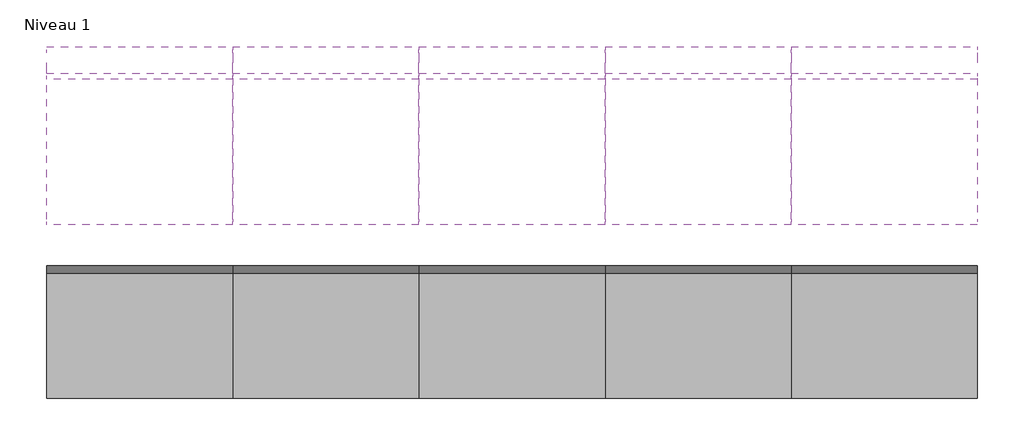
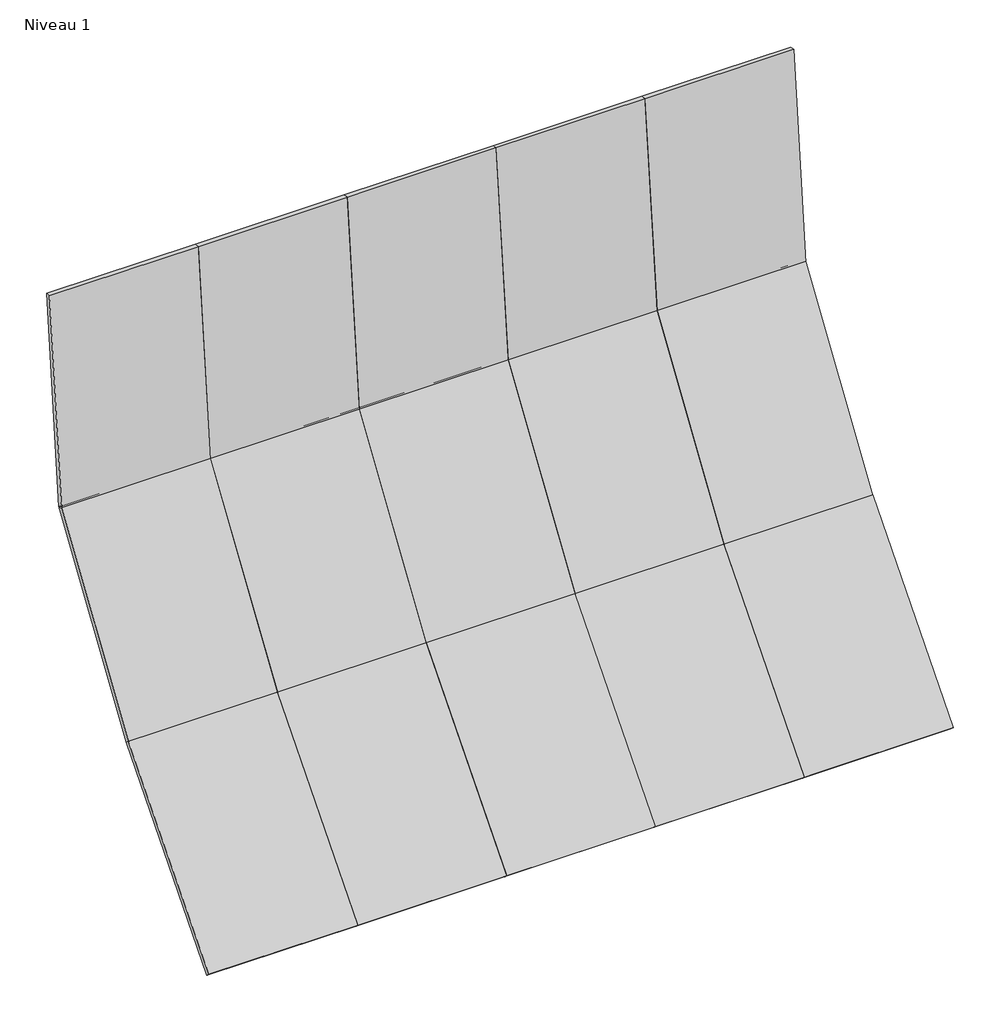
# One storey: 15 plates.
"""IFC4 building model written with IfcOpenShell, lengths in millimetres."""

from ifc_helpers import new_model, si_unit, origin, place, context, project, spatial, transform, mapped, element, save
from components import plate_71a74d13

model = new_model("IFC4")

# Units and contexts
model_context = context("Model", 3, world=origin())
ifc_project = project(units=[si_unit("LENGTHUNIT", "METRE", prefix="MILLI")], contexts=[model_context])

# Site, building, storey
site = spatial("IfcSite", under=ifc_project)
building = spatial("IfcBuilding", under=site)
storey = spatial("IfcBuildingStorey", under=building, Name="Niveau 1", Elevation=3000.0)

# Plates
placement = place(None, origin())
plate_shape = plate_71a74d13(model_context)
element("IfcPlate", 1, ObjectType="Panneau système : Vitré", at=placement, inside=storey, context=model_context, shape_type="MappedRepresentation", body=[
    mapped(plate_shape, transform((-1199.7713711, 2855.5457356, 6840.7463328), x_axis=(0.0, -0.09923526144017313, -0.9950639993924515), y_axis=(0.0, 0.9950639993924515, -0.09923526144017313), z_axis=(1.0, 0.0, 0.0))),
])
element("IfcPlate", 2, ObjectType="Panneau système : Vitré", at=placement, inside=storey, context=model_context, shape_type="MappedRepresentation", body=[
    mapped(plate_shape, transform((-1199.7713711, 2298.5357898, 5263.8997886), x_axis=(0.0, -0.5477922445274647, -0.8366144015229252), y_axis=(0.0, 0.8366144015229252, -0.5477922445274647), z_axis=(1.0, 0.0, 0.0))),
])
element("IfcPlate", 3, ObjectType="Panneau système : Vitré", at=placement, inside=storey, context=model_context, shape_type="MappedRepresentation", body=[
    mapped(plate_shape, transform((-1199.7713711, 1264.8881894, 3891.6155211), x_axis=(0.0, -0.652901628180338, -0.757442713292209), y_axis=(0.0, 0.757442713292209, -0.652901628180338), z_axis=(1.0, 0.0, 0.0))),
])
element("IfcPlate", 4, ObjectType="Panneau système : Vitré", at=placement, inside=storey, context=model_context, shape_type="MappedRepresentation", body=[
    mapped(plate_shape, transform((0.2286289, 2855.5457356, 6840.7463328), x_axis=(0.0, -0.0992352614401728, -0.9950639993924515), y_axis=(0.0, 0.9950639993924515, -0.0992352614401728), z_axis=(1.0, 0.0, 0.0))),
])
element("IfcPlate", 5, ObjectType="Panneau système : Vitré", at=placement, inside=storey, context=model_context, shape_type="MappedRepresentation", body=[
    mapped(plate_shape, transform((0.2286289, 2298.5357898, 5263.8997886), x_axis=(0.0, -0.5477922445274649, -0.8366144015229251), y_axis=(0.0, 0.8366144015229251, -0.5477922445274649), z_axis=(1.0, 0.0, 0.0))),
])
element("IfcPlate", 6, ObjectType="Panneau système : Vitré", at=placement, inside=storey, context=model_context, shape_type="MappedRepresentation", body=[
    mapped(plate_shape, transform((0.2286289, 1264.8881894, 3891.6155211), x_axis=(0.0, -0.652901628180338, -0.757442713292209), y_axis=(0.0, 0.757442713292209, -0.652901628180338), z_axis=(1.0, 0.0, 0.0))),
])
element("IfcPlate", 7, ObjectType="Panneau système : Vitré", at=placement, inside=storey, context=model_context, shape_type="MappedRepresentation", body=[
    mapped(plate_shape, transform((1200.2286289, 2855.5457356, 6840.7463328), x_axis=(0.0, -0.0992352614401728, -0.9950639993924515), y_axis=(0.0, 0.9950639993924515, -0.0992352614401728), z_axis=(1.0, 0.0, 0.0))),
])
element("IfcPlate", 8, ObjectType="Panneau système : Vitré", at=placement, inside=storey, context=model_context, shape_type="MappedRepresentation", body=[
    mapped(plate_shape, transform((1200.2286289, 2298.5357898, 5263.8997886), x_axis=(0.0, -0.5477922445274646, -0.8366144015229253), y_axis=(0.0, 0.8366144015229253, -0.5477922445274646), z_axis=(1.0, 0.0, 0.0))),
])
element("IfcPlate", 9, ObjectType="Panneau système : Vitré", at=placement, inside=storey, context=model_context, shape_type="MappedRepresentation", body=[
    mapped(plate_shape, transform((1200.2286289, 1264.8881894, 3891.6155211), x_axis=(0.0, -0.6529016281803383, -0.7574427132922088), y_axis=(0.0, 0.7574427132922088, -0.6529016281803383), z_axis=(1.0, 0.0, 0.0))),
])
element("IfcPlate", 10, ObjectType="Panneau système : Vitré", at=placement, inside=storey, context=model_context, shape_type="MappedRepresentation", body=[
    mapped(plate_shape, transform((2400.2286289, 2855.5457356, 6840.7463328), x_axis=(0.0, -0.09923526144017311, -0.9950639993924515), y_axis=(0.0, 0.9950639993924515, -0.09923526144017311), z_axis=(1.0, 0.0, 0.0))),
])
element("IfcPlate", 11, ObjectType="Panneau système : Vitré", at=placement, inside=storey, context=model_context, shape_type="MappedRepresentation", body=[
    mapped(plate_shape, transform((2400.2286289, 2298.5357898, 5263.8997886), x_axis=(0.0, -0.5477922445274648, -0.8366144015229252), y_axis=(0.0, 0.8366144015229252, -0.5477922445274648), z_axis=(1.0, 0.0, 0.0))),
])
element("IfcPlate", 12, ObjectType="Panneau système : Vitré", at=placement, inside=storey, context=model_context, shape_type="MappedRepresentation", body=[
    mapped(plate_shape, transform((2400.2286289, 1264.8881894, 3891.6155211), x_axis=(0.0, -0.6529016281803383, -0.7574427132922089), y_axis=(0.0, 0.7574427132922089, -0.6529016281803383), z_axis=(1.0, 0.0, 0.0))),
])
element("IfcPlate", 13, ObjectType="Panneau système : Vitré", at=placement, inside=storey, context=model_context, shape_type="MappedRepresentation", body=[
    mapped(plate_shape, transform((3600.2286289, 2855.5457356, 6840.7463328), x_axis=(0.0, -0.09923526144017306, -0.9950639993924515), y_axis=(0.0, 0.9950639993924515, -0.09923526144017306), z_axis=(1.0, 0.0, 0.0))),
])
element("IfcPlate", 14, ObjectType="Panneau système : Vitré", at=placement, inside=storey, context=model_context, shape_type="MappedRepresentation", body=[
    mapped(plate_shape, transform((3600.2286289, 2298.5357898, 5263.8997886), x_axis=(0.0, -0.5477922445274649, -0.8366144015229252), y_axis=(0.0, 0.8366144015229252, -0.5477922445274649), z_axis=(1.0, 0.0, 0.0))),
])
element("IfcPlate", 15, ObjectType="Panneau système : Vitré", at=placement, inside=storey, context=model_context, shape_type="MappedRepresentation", body=[
    mapped(plate_shape, transform((3600.2286289, 1264.8881894, 3891.6155211), x_axis=(0.0, -0.6529016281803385, -0.7574427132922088), y_axis=(0.0, 0.7574427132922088, -0.6529016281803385), z_axis=(1.0, 0.0, 0.0))),
])

save(model, "model.ifc")
